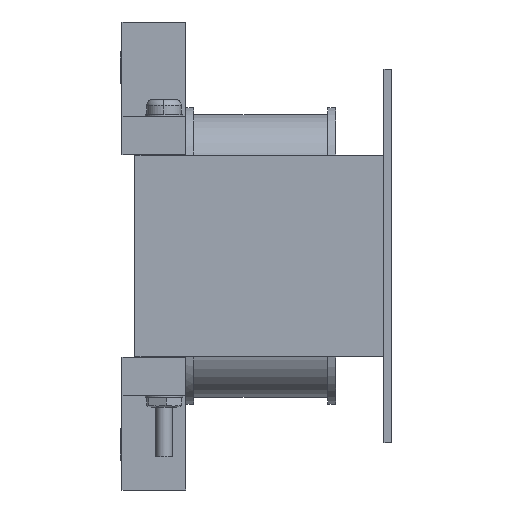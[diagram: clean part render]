
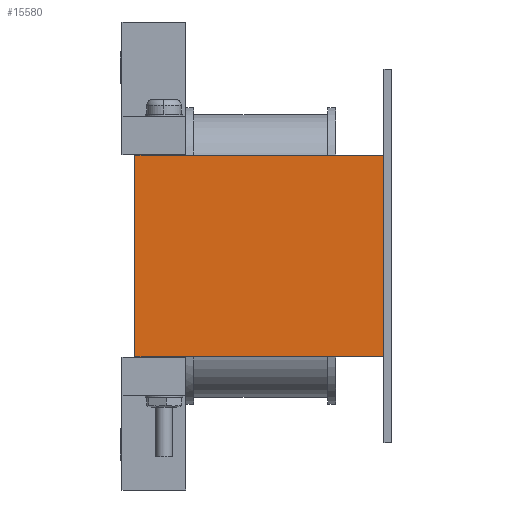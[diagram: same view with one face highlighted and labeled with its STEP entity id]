
A CAD part, left-side view. The second image highlights one B-rep face of the part: STEP entity #15580.
In plain terms, the highlighted planar face has unit normal (-1, 0, 0).
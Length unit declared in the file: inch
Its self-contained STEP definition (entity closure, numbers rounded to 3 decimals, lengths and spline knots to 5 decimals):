
#290 = CARTESIAN_POINT ( 'NONE',  ( -1.5, 2.58, -1.015 ) ) ;
#476 = DIRECTION ( 'NONE',  ( 0., 0., -1. ) ) ;
#828 = VECTOR ( 'NONE', #18165, 39.37008 ) ;
#1316 = ORIENTED_EDGE ( 'NONE', *, *, #20275, .F. ) ;
#1969 = EDGE_CURVE ( 'NONE', #4063, #3128, #20823, .T. ) ;
#2040 = PLANE ( 'NONE',  #12026 ) ;
#2330 = CARTESIAN_POINT ( 'NONE',  ( -1.5, 0.0781, -1.015 ) ) ;
#2721 = VECTOR ( 'NONE', #20719, 39.37008 ) ;
#2890 = DIRECTION ( 'NONE',  ( 0., -1., 0. ) ) ;
#3128 = VERTEX_POINT ( 'NONE', #13469 ) ;
#3558 = LINE ( 'NONE', #16641, #10806 ) ;
#4063 = VERTEX_POINT ( 'NONE', #2330 ) ;
#5385 = CARTESIAN_POINT ( 'NONE',  ( -1.5, 0.0781, -2.3517 ) ) ;
#7215 = DIRECTION ( 'NONE',  ( 1., 0., 0. ) ) ;
#7394 = ORIENTED_EDGE ( 'NONE', *, *, #20874, .F. ) ;
#7796 = LINE ( 'NONE', #11294, #828 ) ;
#10806 = VECTOR ( 'NONE', #2890, 39.37008 ) ;
#11294 = CARTESIAN_POINT ( 'NONE',  ( -1.5, 2.58, -1.015 ) ) ;
#12026 = AXIS2_PLACEMENT_3D ( 'NONE', #15908, #7215, #476 ) ;
#12266 = CARTESIAN_POINT ( 'NONE',  ( -1.5, 2.58, 1.015 ) ) ;
#13469 = CARTESIAN_POINT ( 'NONE',  ( -1.5, 0.0781, 1.015 ) ) ;
#15137 = VERTEX_POINT ( 'NONE', #290 ) ;
#15293 = EDGE_CURVE ( 'NONE', #15137, #4063, #7796, .T. ) ;
#15580 = ADVANCED_FACE ( 'NONE', ( #19376 ), #2040, .F. ) ;
#15908 = CARTESIAN_POINT ( 'NONE',  ( -1.5, 0.078, -1.875 ) ) ;
#16240 = ORIENTED_EDGE ( 'NONE', *, *, #15293, .T. ) ;
#16641 = CARTESIAN_POINT ( 'NONE',  ( -1.5, 2.58, 1.015 ) ) ;
#16807 = VERTEX_POINT ( 'NONE', #12266 ) ;
#16920 = VECTOR ( 'NONE', #17685, 39.37008 ) ;
#17258 = LINE ( 'NONE', #18933, #16920 ) ;
#17685 = DIRECTION ( 'NONE',  ( 0., 0., 1. ) ) ;
#17902 = ORIENTED_EDGE ( 'NONE', *, *, #1969, .T. ) ;
#18165 = DIRECTION ( 'NONE',  ( 0., -1., 0. ) ) ;
#18933 = CARTESIAN_POINT ( 'NONE',  ( -1.5, 2.58, -1.015 ) ) ;
#19376 = FACE_OUTER_BOUND ( 'NONE', #21806, .T. ) ;
#20275 = EDGE_CURVE ( 'NONE', #15137, #16807, #17258, .T. ) ;
#20719 = DIRECTION ( 'NONE',  ( 0., 0., 1. ) ) ;
#20823 = LINE ( 'NONE', #5385, #2721 ) ;
#20874 = EDGE_CURVE ( 'NONE', #16807, #3128, #3558, .T. ) ;
#21806 = EDGE_LOOP ( 'NONE', ( #16240, #17902, #7394, #1316 ) ) ;
